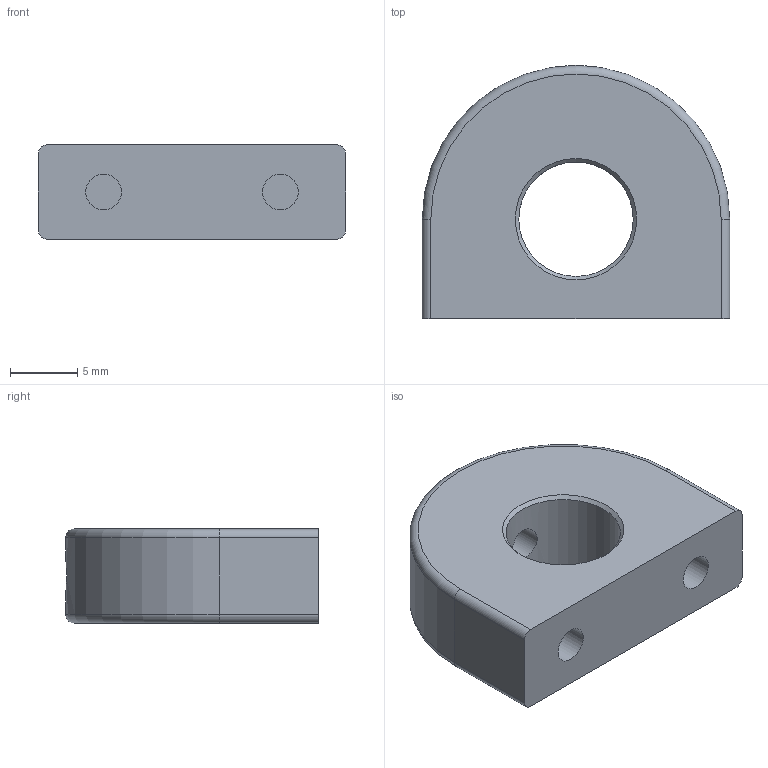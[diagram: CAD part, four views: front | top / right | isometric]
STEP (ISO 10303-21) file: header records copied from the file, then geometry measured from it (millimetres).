
FILE_DESCRIPTION(/* description */ (''),/* implementation_level */ '2;1');
FILE_NAME(/* name */ '2609_ROAM_PAYLOAD_RAIL_MOUNT_3DP_REV1.step',/* time_stamp */ '2026-09-16T14:07:23-07:00',/* author */ (''),/* organization */ (''),/* preprocessor_version */ 'ST-DEVELOPER v20.2',/* originating_system */ 'Autodesk Translation Framework v15.15.0.0',/* authorisation */ '');
FILE_SCHEMA (('AUTOMOTIVE_DESIGN { 1 0 10303 214 3 1 1 }'));
Length unit declared in the file: inch
Products named in the file (1): 2026-08-26-10-38-57-494
Bounding box: 22.85 x 18.79 x 6.99 mm (x, y, z)
Volume: 2084 mm3; surface area: 1461.7 mm2
Topology: 1 solids, 1 shells, 20 faces, 44 edges, 28 vertices
Faces by surface type: cylinder 9, plane 7, cone 2, torus 2
Full cylindrical faces by diameter (mm): 2.642 x3, 8.509 x1
Entity records: 666 total; most frequent: CARTESIAN_POINT 161, DIRECTION 102, ORIENTED_EDGE 88, EDGE_CURVE 44, AXIS2_PLACEMENT_3D 41, VERTEX_POINT 28, EDGE_LOOP 26, FACE_OUTER_BOUND 20
